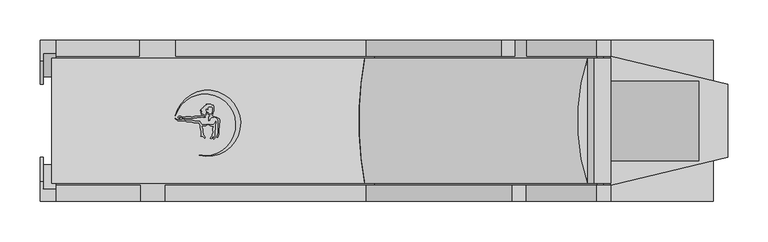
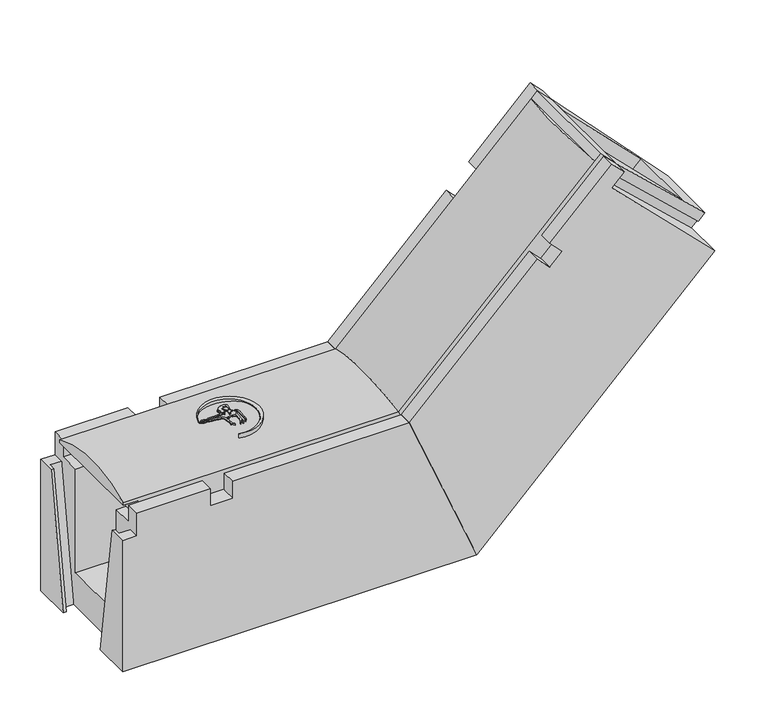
"""IFC4 building model written with IfcOpenShell, lengths in millimetres: cable carrier fitting geometry, Evotray type 1 vertical bend up : Evotray type 1 vertical bend up."""

from ifc_helpers import new_model, si_unit, point, frame, frame_2d, origin, place, context, project, spatial, polyline, circle_curve, ellipse_curve, trimmed, segment, composite_curve, outline, extrude, faceted_brep, source, transform, mapped, element, save
from ifc_brep_helpers import plane_surface, cylinder_surface, advanced_brep


def cable_carrier_fitting_4c6b5563(model_context):
    return source(origin(), model_context, "Body", "SolidModel", [
        extrude(outline(composite_curve([segment(polyline([(-170.1987673, 5.907559), (-168.7730763, 5.0844359), (-169.4820077, 4.6751342), (-172.0469375, 4.6751342), (-174.5064308, 2.2156409), (-174.5064308, 0.6319729), (-175.5639447, 0.3486129), (-175.8953119, 1.5852919), (-175.5730905, 2.7878385), (-175.5730905, 5.0146536), (-174.1065498, 6.4811943), (-174.5064308, 7.1738084), (-175.5730905, 7.7896447), (-176.4313624, 8.2851682), (-177.4244859, 9.2782918), (-177.4244859, 10.5283487), (-176.6366917, 10.0735155), (-175.5730905, 9.0099142), (-174.5064308, 8.394078), (-172.1936661, 8.394078), (-171.5617675, 9.0259766), (-171.5617675, 10.6343813), (-171.1559104, 11.3373462), (-170.9163405, 12.2314336), (-170.9163405, 16.3268685), (-171.5617675, 16.9722955), (-175.5730905, 17.3232408), (-176.3212546, 16.8912881), (-176.7531031, 16.1433045), (-176.9754965, 15.313321), (-177.2482129, 13.7666695), (-177.8042347, 14.3226912), (-178.3698905, 14.8883471), (-179.3304254, 14.8883471), (-179.8048648, 14.0665939), (-179.8048648, 13.2416885), (-179.4028177, 12.5453225), (-178.675123, 11.8176278), (-179.0717623, 10.3373496), (-179.4092623, 9.0777826), (-179.1064549, 7.3604762), (-179.907248, 7.2192748), (-181.6376932, 7.6829462), (-182.8844025, 8.2642963), (-183.6376597, 8.6155459), (-185.2371082, 8.33352), (-184.7695498, 9.1433549), (-183.1127288, 9.7463885)]), True, "CONTINUOUS"), segment(trimmed(circle_curve(frame_2d((-183.6788564, 9.4744491)), 0.6280537), [point((-183.1127288, 9.7463885))], [point((-183.8344386, 10.0829273))], True, "CARTESIAN"), True, "CONTINUOUS"), segment(polyline([(-183.8344386, 10.0829273), (-185.7814537, 10.0829273), (-185.2232755, 10.6411054), (-184.3724958, 10.9507639), (-183.5540563, 11.2486515)]), True, "CONTINUOUS"), segment(trimmed(circle_curve(frame_2d((-184.2923812, 11.2486515)), 0.7383249), [point((-183.5540563, 11.2486515))], [point((-184.2923812, 11.9869764))], True, "CARTESIAN"), True, "CONTINUOUS"), segment(polyline([(-184.2923812, 11.9869764), (-186.0001288, 11.9869764), (-186.3916504, 12.6651117), (-184.5730583, 12.9857785), (-183.2767203, 13.457607), (-183.897473, 14.0783597), (-185.8606925, 14.0783597), (-185.30811, 14.6309421), (-184.2782773, 15.2255163), (-183.603553, 15.9002407), (-182.8807357, 16.3175594), (-181.9057237, 16.8804829)]), True, "CONTINUOUS"), segment(trimmed(circle_curve(frame_2d((-182.1167091, 17.2459203)), 0.4219708), [point((-181.9057237, 16.8804829))], [point((-182.3276945, 17.6113577))], True, "CARTESIAN"), True, "CONTINUOUS"), segment(polyline([(-182.3276945, 17.6113577), (-181.7102978, 18.2287544), (-180.4076278, 18.7028875), (-179.4125713, 19.2773836), (-178.2810347, 19.4769041), (-178.6348604, 20.4490324), (-173.6348604, 20.4490324), (-172.6206866, 19.9761154), (-171.4988316, 19.6755153), (-170.4843855, 19.0898245), (-169.3757091, 17.9811481), (-169.3757091, 15.4151328), (-169.8646262, 14.5683035), (-169.8646262, 11.8362675), (-170.3536612, 10.7875287), (-170.760463, 10.0829273), (-170.760463, 8.2341629), (-171.5617675, 7.7715296), (-172.3950459, 7.6246001)]), True, "CONTINUOUS"), segment(trimmed(circle_curve(frame_2d((-171.3420944, 7.3424626)), 1.0900956), [point((-172.3950459, 7.6246001))], [point((-171.6242319, 6.2895111))], True, "CARTESIAN"), True, "CONTINUOUS"), segment(polyline([(-171.6242319, 6.2895111), (-170.1987673, 5.907559)]), True, "CONTINUOUS")], self_intersect=False)), frame((0.0, 0.0, 229.0645802), z_axis=(0.0, 0.0, 1.0), x_axis=(1.0, 0.0, 0.0)), (0.0, 0.0, 1.0), 22.5),
        extrude(outline(polyline([(-165.6420581, 3.0525563), (-167.5647021, 4.1625953), (-166.375462, 4.4812513), (-165.0006066, 3.9808448), (-162.8744575, 2.753312), (-162.462808, 1.2170154), (-162.462808, -1.5561738), (-162.8811889, -3.9289297), (-163.2073261, -13.2682758), (-163.2073261, -16.1231727), (-163.766974, -19.297094), (-164.9259981, -20.4561181), (-165.8234867, -20.4561181), (-165.1486125, -18.6019165), (-164.8396569, -16.8497423), (-164.3251997, -13.9321102), (-164.3251997, -2.6926455), (-163.883565, -0.1880111), (-164.4260419, 1.8365401), (-165.6420581, 3.0525563)])), frame((0.0, 0.0, 229.0645802), z_axis=(0.0, 0.0, 1.0), x_axis=(1.0, 0.0, 0.0)), (0.0, 0.0, 1.0), 22.5),
        extrude(outline(composite_curve([segment(polyline([(-173.070307, -4.5554644), (-171.0881056, -4.5554644), (-169.6198413, -4.2965698), (-168.3145593, -2.9912878), (-167.1344504, -0.4605362), (-166.6534984, -1.7819409), (-167.2762062, -3.117342), (-167.9468137, -4.5554644), (-167.9468137, -10.5136603), (-168.3751928, -12.943119), (-168.3751928, -21.4242609), (-169.8238515, -22.8729196), (-170.3965887, -22.3001824), (-169.7178687, -20.5578122), (-169.4597233, -19.0937972)]), True, "CONTINUOUS"), segment(trimmed(circle_curve(frame_2d((-169.8743713, -19.0937972)), 0.414648), [point((-169.4597233, -19.0937972))], [point((-170.2890194, -19.0937972))], True, "CARTESIAN"), True, "CONTINUOUS"), segment(polyline([(-170.2890194, -19.0937972), (-171.0547081, -19.8594859), (-172.3215546, -21.3692548), (-172.9770637, -22.0247639), (-173.7693849, -21.6552984), (-171.605165, -18.4467105), (-171.2992553, -16.7118106), (-170.4571975, -14.9060116), (-170.19999, -13.4473154), (-170.9884987, -12.0815782), (-170.9884987, -9.315031), (-169.6653502, -7.4454743)]), True, "CONTINUOUS"), segment(trimmed(circle_curve(frame_2d((-170.0024552, -7.2068937)), 0.4129897), [point((-169.6653502, -7.4454743))], [point((-170.2410358, -6.8697887))], True, "CARTESIAN"), True, "CONTINUOUS"), segment(polyline([(-170.2410358, -6.8697887), (-172.2448508, -6.516462), (-173.6887473, -5.843162), (-175.508748, -4.9944818), (-175.508748, -4.1255015), (-173.070307, -4.5554644)]), True, "CONTINUOUS")], self_intersect=False)), frame((0.0, 0.0, 229.0645802), z_axis=(0.0, 0.0, 1.0), x_axis=(1.0, 0.0, 0.0)), (0.0, 0.0, 1.0), 22.5),
        extrude(outline(composite_curve([segment(polyline([(-215.4819029, 2.2537302), (-213.7462291, 1.4443722), (-209.5597552, 1.4443722), (-208.4890341, 1.731271), (-207.1624965, 1.731271), (-205.4413877, 1.4443722), (-203.4350656, 0.9067798), (-202.2818775, 0.597784), (-196.5899708, 0.597784), (-193.9734749, 0.1616293), (-192.6459123, -0.19409), (-187.03167, -0.19409)]), True, "CONTINUOUS"), segment(trimmed(circle_curve(frame_2d((-178.1781038, 2.7115165)), 9.3181642), [point((-187.03167, -0.19409))], [point((-183.6774022, -4.8108435))], True, "CARTESIAN"), True, "CONTINUOUS"), segment(polyline([(-183.6774022, -4.8108435), (-180.6256174, -4.8108435), (-178.5910388, -4.632841), (-177.4520349, -4.1017147), (-177.7095548, -5.0627921), (-178.6536491, -5.6078652), (-179.612336, -5.9567987), (-182.847041, -5.8438403), (-184.0357356, -6.2764898), (-184.44473, -7.153581), (-184.3696494, -8.0117562), (-183.8907652, -8.8412079), (-183.1701597, -9.5618134), (-183.1701597, -11.3180259), (-183.53546, -12.3216801), (-183.3911934, -13.970655), (-182.8861011, -15.8556852), (-182.737982, -17.5486944), (-180.3666469, -20.2766033), (-180.5753239, -21.4600691), (-183.1701597, -18.8652332), (-184.1329913, -19.1232231), (-185.5361675, -18.8758053), (-185.2606072, -18.1187094), (-185.2606072, -15.8446539), (-185.0850033, -14.8487551), (-185.2606072, -12.8415943), (-185.6362696, -11.8094702), (-185.6362696, -9.9842873), (-186.0826053, -9.0271173), (-186.0826053, -6.6493678), (-186.3310455, -5.7221762), (-186.7830159, -4.9393406), (-187.2317276, -4.1621491), (-187.84617, -3.5477067), (-188.2800213, -2.6173096), (-191.8809595, -2.4915621), (-194.2251115, -2.1008055), (-196.2577048, -1.5561738), (-199.5993244, -1.2049554), (-201.6789374, -1.2049554), (-203.021172, -0.8453047), (-204.5447671, -0.4370587), (-205.8880204, 0.1893106), (-206.8824091, 0.1893106), (-209.5338495, 0.1893106), (-210.6460936, -0.1087143), (-212.5093755, 0.0871245), (-213.9984504, 0.3353447), (-215.6717579, 1.1156208), (-216.6476843, 2.0915471), (-217.2867674, 2.7306302), (-217.2867674, 3.5175099), (-215.4819029, 2.2537302)]), True, "CONTINUOUS")], self_intersect=False)), frame((0.0, 0.0, 229.0645802), z_axis=(0.0, 0.0, 1.0), x_axis=(1.0, 0.0, 0.0)), (0.0, 0.0, 1.0), 22.5),
        extrude(outline(composite_curve([segment(polyline([(-212.9796703, 3.7977023), (-211.956356, 3.2068915), (-213.6840165, 3.7265624), (-214.014163, 4.6441261), (-213.1758386, 5.4824506), (-210.30302, 5.4824506), (-209.318583, 5.0847122), (-208.2280942, 4.6441261), (-207.4299007, 4.1832889), (-206.1696706, 4.1832889), (-205.3486455, 4.4787), (-204.4633932, 4.9898007), (-198.0496883, 4.9898007), (-197.1941137, 4.6441261), (-196.1237116, 4.6441261), (-195.1629915, 4.9898007), (-193.9838348, 4.9898007), (-193.2654957, 5.4045339), (-187.8528405, 5.4045339), (-187.0925598, 5.6780888), (-185.8504018, 5.6780888), (-185.2746333, 6.2538574), (-183.3170698, 6.2538574), (-182.0290688, 5.7334711), (-181.0171524, 5.1492409), (-180.2127113, 4.8242256)]), True, "CONTINUOUS"), segment(trimmed(circle_curve(frame_2d((-180.6200436, 4.6596527)), 0.4393221), [point((-180.2127113, 4.8242256))], [point((-180.7846166, 4.2523203))], False, "CARTESIAN"), True, "CONTINUOUS"), segment(polyline([(-180.7846166, 4.2523203), (-181.8003453, 4.6627013), (-183.112003, 4.6627013), (-184.382433, 4.8867124), (-185.1944574, 4.5945398), (-186.3374314, 4.1832889), (-189.6816293, 4.1832889), (-190.4727027, 3.7265624), (-194.0400229, 3.7265624), (-194.9228853, 3.2168416), (-204.9228853, 3.2168416), (-207.5335493, 2.9884381), (-211.222077, 4.4787), (-213.3728446, 4.4787), (-212.9796703, 3.7977023)]), True, "CONTINUOUS")], self_intersect=False)), frame((0.0, 0.0, 229.0645802), z_axis=(0.0, 0.0, 1.0), x_axis=(1.0, 0.0, 0.0)), (0.0, 0.0, 1.0), 22.5),
        extrude(outline(composite_curve([segment(trimmed(circle_curve(frame_2d((-180.3994103, -4.8721323)), 38.3616107), [point((-187.8072471, -42.511701))], [point((-217.1109456, 6.2578432))], True, "CARTESIAN"), True, "CONTINUOUS"), segment(trimmed(circle_curve(frame_2d((-177.2700096, -2.9917986)), 40.900563), [point((-217.1109456, 6.2578432))], [point((-187.8072471, -42.511701))], False, "CARTESIAN"), True, "CONTINUOUS")], self_intersect=False)), frame((0.0, 0.0, 229.0645802), z_axis=(0.0, 0.0, 1.0), x_axis=(1.0, 0.0, 0.0)), (0.0, 0.0, 1.0), 22.5),
        advanced_brep(
        [(30.0862197, -77.5, 205.0), (323.5965005, -77.5, 498.5102807), (303.1074144, -77.5, 518.9993667), (294.6221331, -77.5, 510.5140854), (18.0740264, -77.5, 234.0), (323.5965005, 77.5, 498.5102807), (30.0862197, 77.5, 205.0), (18.0740264, 77.5, 234.0), (294.6051224, 77.5, 510.531096), (303.1074144, 77.5, 518.9993667)],
        [
            (0, 1),
            (1, 2),
            (2, 3),
            (3, 4),
            (4, 0),
            (5, 6),
            (6, 7),
            (7, 8),
            (8, 9),
            (9, 5),
            (1, 5),
            (9, 2),
            (6, 0),
            (4, 7, ellipse_curve(frame((87.8814206, 0.0, 65.4700422), z_axis=(-0.9238795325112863, 0.0, -0.38268343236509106), x_axis=(-0.3826834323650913, 0.0, 0.9238795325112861)), 200.7789296, 185.4955436)),
            (8, 3),
            (8, 3, circle_curve(frame((413.7737984, 0.0, 391.36242), z_axis=(0.7071067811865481, 0.0, 0.7071067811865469), x_axis=(0.0, -1.0, 0.0)), 185.4955436)),
        ],
        [
            plane_surface(frame((323.5965005, -77.5, 498.5102807), z_axis=(0.0, -1.0000000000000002, 0.0), x_axis=(-0.7071067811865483, 0.0, 0.7071067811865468))),
            plane_surface(frame((323.5965005, 77.5, 498.5102807), z_axis=(0.0, 1.0000000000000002, 0.0), x_axis=(0.7071067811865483, 0.0, -0.7071067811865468))),
            plane_surface(frame((323.5965005, -77.5, 498.5102807), z_axis=(0.7071067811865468, 0.0, 0.7071067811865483), x_axis=(0.0, 1.0, 0.0))),
            plane_surface(frame((11.0323958, -77.5, 251.0), z_axis=(-0.9238795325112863, 0.0, -0.38268343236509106), x_axis=(0.0, 1.0, 0.0))),
            plane_surface(frame((30.0862197, -77.5, 205.0), z_axis=(0.7071067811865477, 0.0, -0.7071067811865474), x_axis=(0.0, 1.0, 0.0))),
            plane_surface(frame((303.1074144, -77.5, 518.9993667), z_axis=(-0.7071067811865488, 0.0, 0.7071067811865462), x_axis=(-0.7071067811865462, 0.0, -0.7071067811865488))),
            plane_surface(frame((294.6221331, -77.5, 510.5140854), z_axis=(0.7071067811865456, 0.0, 0.7071067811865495), x_axis=(-0.7071067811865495, 0.0, 0.7071067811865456))),
            cylinder_surface(frame((135.4853431, 0.0, 113.0739647), z_axis=(0.7071067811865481, 0.0, 0.7071067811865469), x_axis=(0.0, -1.0, 0.0)), 185.4955436),
        ],
        [
            (0, [[1, 2, 3, 4, 5]]),
            (1, [[6, 7, 8, 9, 10]]),
            (2, [[11, -10, 12, -2]]),
            (3, [[13, -5, 14, -7]]),
            (4, [[-1, -13, -6, -11]]),
            (5, [[15, -3, -12, -9]]),
            (6, [[-15, 16]]),
            (7, [[-4, -16, -8, -14]]),
        ],
    ),
        advanced_brep(
        [(-351.0, -77.5, 205.0), (30.0862197, -77.5, 205.0), (18.0740264, -77.5, 234.0), (-371.0, -77.5, 234.0), (-371.0, -77.5, 230.0), (-351.0, -77.5, 230.0), (30.0862197, 77.5, 205.0), (-351.0, 77.5, 205.0), (-351.0, 77.5, 230.0), (-371.0, 77.5, 230.0), (-371.0, 77.5, 234.0), (18.0740264, 77.5, 234.0)],
        [
            (0, 1),
            (1, 2),
            (2, 3),
            (3, 4),
            (4, 5),
            (5, 0),
            (6, 7),
            (7, 8),
            (8, 9),
            (9, 10),
            (10, 11),
            (11, 6),
            (9, 4),
            (3, 10, circle_curve(frame((-371.0, 0.0, 65.4700422), z_axis=(-1.0, 0.0, 0.0), x_axis=(0.0, -1.0, 0.0)), 185.4955436)),
            (6, 1),
            (0, 7),
            (11, 2, ellipse_curve(frame((87.8814206, 0.0, 65.4700422), z_axis=(0.9238795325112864, 0.0, 0.38268343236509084), x_axis=(0.3826834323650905, 0.0, -0.9238795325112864)), 200.7789296, 185.4955436)),
            (8, 5),
        ],
        [
            plane_surface(frame((-371.0, -77.5, 205.0), z_axis=(0.0, -1.0, 0.0), x_axis=(0.0, 0.0, -1.0))),
            plane_surface(frame((-371.0, 77.5, 205.0), z_axis=(0.0, 1.0, 0.0), x_axis=(0.0, 0.0, 1.0))),
            plane_surface(frame((-371.0, -77.5, 251.0), z_axis=(-1.0, 0.0, 0.0), x_axis=(0.0, 1.0, 0.0))),
            plane_surface(frame((-371.0, -77.5, 205.0), z_axis=(0.0, 0.0, -1.0), x_axis=(0.0, 1.0, 0.0))),
            plane_surface(frame((30.0862197, -77.5, 205.0), z_axis=(0.9238795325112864, 0.0, 0.38268343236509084), x_axis=(0.0, 1.0, 0.0))),
            plane_surface(frame((-371.0, 77.5, 230.0), z_axis=(0.0, 0.0, -1.0), x_axis=(-1.0, 0.0, 0.0))),
            plane_surface(frame((-351.0, -77.5, 230.0), z_axis=(-1.0, 0.0, 0.0), x_axis=(0.0, 0.0, -1.0))),
            cylinder_surface(frame((-371.0, 0.0, 65.4700422), z_axis=(1.0, 0.0, 0.0), x_axis=(0.0, -1.0, 0.0)), 185.4955436),
        ],
        [
            (0, [[1, 2, 3, 4, 5, 6]]),
            (1, [[7, 8, 9, 10, 11, 12]]),
            (2, [[13, -4, 14, -10]]),
            (3, [[15, -1, 16, -7]]),
            (4, [[-15, -12, 17, -2]]),
            (5, [[18, -5, -13, -9]]),
            (6, [[-18, -8, -16, -6]]),
            (7, [[-3, -17, -11, -14]]),
        ],
    ),
        faceted_brep([(19.7308807, -100.0, 230.0), (115.0, -100.0, 0.0), (450.8757211, -100.0, 335.8757211), (305.9188309, -100.0, 480.8326112), (323.5965005, -100.0, 498.5102807), (305.9188309, -100.0, 516.1879503), (218.2375901, -100.0, 428.5067094), (235.9152596, -100.0, 410.8290399), (218.2375901, -100.0, 393.1513703), (200.5599205, -100.0, 410.8290399), (115.0, 100.0, 0.0), (19.7308807, 100.0, 230.0), (187.1248917, 100.0, 397.394011), (204.8025612, 100.0, 379.7163415), (236.6223664, 100.0, 411.5361467), (218.9446968, 100.0, 429.2138162), (305.9188309, 100.0, 516.1879503), (323.5965005, 100.0, 498.5102807), (305.9188309, 100.0, 480.8326112), (450.8757211, 100.0, 335.8757211), (323.5965005, -50.0, 498.5102807), (323.5965005, -80.0, 498.5102807), (468.5533906, -45.4, 353.5533906), (468.5533906, 45.4, 353.5533906), (323.5965005, 80.0, 498.5102807), (323.5965005, 50.0, 498.5102807), (433.1980515, 50.0, 388.9087297), (433.1980515, -50.0, 388.9087297), (305.9188309, -80.0, 516.1879503), (305.9188309, 80.0, 516.1879503), (218.2375901, -80.0, 428.5067094), (218.9446968, 80.0, 429.2138162), (19.7308807, -80.0, 230.0), (200.5599205, -80.0, 410.8290399), (19.7308807, 80.0, 230.0), (187.1248917, 80.0, 397.394011), (30.0862197, -80.0, 205.0), (30.0862197, -50.0, 205.0), (94.2893219, -50.0, 50.0), (94.2893219, 50.0, 50.0), (30.0862197, 50.0, 205.0), (30.0862197, 80.0, 205.0), (450.8757211, 43.0, 335.8757211), (459.3610024, 43.0, 344.3610024), (459.3610024, 45.4, 344.3610024), (459.3610024, -45.4, 344.3610024), (459.3610024, -43.0, 344.3610024), (450.8757211, -43.0, 335.8757211), (314.4041123, -80.0, 489.3178926), (305.9188309, -80.0, 480.8326112), (235.9152596, -80.0, 410.8290399), (218.2375901, -80.0, 393.1513703), (236.6223664, 80.0, 411.5361467), (305.9188309, 80.0, 480.8326112), (314.4041123, 80.0, 489.3178926), (204.8025612, 80.0, 379.7163415), (305.9188309, -77.6, 480.8326112), (314.4041123, -77.6, 489.3178926), (314.4041123, 77.6, 489.3178926), (305.9188309, 77.6, 480.8326112)], [[[0, 1, 2, 3, 4, 5, 6, 7, 8, 9]], [[10, 11, 12, 13, 14, 15, 16, 17, 18, 19]], [[20, 21, 22, 23, 24, 25, 26, 27]], [[28, 5, 4, 21]], [[16, 29, 24, 17]], [[5, 28, 30, 6]], [[29, 16, 15, 31]], [[32, 0, 9, 33]], [[11, 34, 35, 12]], [[1, 0, 32, 36, 37, 38, 39, 40, 41, 34, 11, 10]], [[1, 10, 19, 42, 43, 44, 23, 22, 45, 46, 47, 2]], [[28, 21, 48, 49, 50, 30]], [[36, 32, 33, 51]], [[24, 29, 31, 52, 53, 54]], [[34, 41, 55, 35]], [[37, 36, 51, 8, 7, 50, 49, 56, 57, 48, 21, 20]], [[41, 40, 25, 24, 54, 58, 59, 53, 52, 14, 13, 55]], [[27, 38, 37, 20]], [[39, 26, 25, 40]], [[38, 27, 26, 39]], [[48, 21, 4, 3, 49]], [[21, 48, 45, 22]], [[24, 54, 53, 18, 17]], [[54, 24, 23, 44]], [[46, 57, 56, 47]], [[47, 56, 49, 3, 2]], [[57, 46, 45, 48]], [[42, 59, 58, 43]], [[59, 42, 19, 18, 53]], [[43, 58, 54, 44]], [[55, 13, 12, 35]], [[14, 52, 31, 15]], [[50, 7, 6, 30]], [[8, 51, 33, 9]]]),
        faceted_brep([(-385.0, -100.0, 0.0), (115.0, -100.0, 0.0), (19.7308807, -100.0, 230.0), (-229.6518259, -100.0, 230.0), (-229.6518259, -100.0, 205.0), (-261.0, -100.0, 205.0), (-261.0, -100.0, 230.0), (-365.0130369, -100.0, 230.0), (-365.0130369, -100.0, 196.0), (-385.0, -100.0, 196.0), (19.7308807, 100.0, 230.0), (115.0, 100.0, 0.0), (-385.0, 100.0, 0.0), (-385.0, 100.0, 196.0), (-365.0130369, 100.0, 196.0), (-365.0130369, 100.0, 230.0), (-262.0, 100.0, 230.0), (-262.0, 100.0, 205.0), (-217.0, 100.0, 205.0), (-217.0, 100.0, 230.0), (19.7308807, -80.0, 230.0), (-229.6518259, -80.0, 230.0), (19.7308807, 80.0, 230.0), (-217.0, 80.0, 230.0), (-365.0130369, -80.0, 230.0), (-261.0, -80.0, 230.0), (-365.0130369, 80.0, 230.0), (-262.0, 80.0, 230.0), (-385.0, -45.45, 0.0), (-385.0, -74.8926087, 196.0), (-385.0, 45.45, 0.0), (-385.0, 74.8926087, 196.0), (-381.0, -45.45, 0.0), (-381.0, -54.6, 0.0), (-365.0, -54.6, 0.0), (-365.0, 54.6, 0.0), (-381.0, 54.6, 0.0), (-381.0, 45.45, 0.0), (30.0862197, 80.0, 205.0), (30.0862197, 50.0, 205.0), (94.2893219, 50.0, 50.0), (94.2893219, -50.0, 50.0), (30.0862197, -50.0, 205.0), (30.0862197, -80.0, 205.0), (-381.0, 74.8926087, 196.0), (-381.0, -74.8926087, 196.0), (-365.0, 84.0426087, 196.0), (-381.0, 84.0426087, 196.0), (-381.0, -84.0426087, 196.0), (-365.0, -84.0426087, 196.0), (-365.0, -80.0, 205.0), (-365.0, -77.5, 205.0), (-365.0, -50.0, 205.0), (-365.0, -50.0, 50.0), (-365.0, 50.0, 50.0), (-365.0, 50.0, 205.0), (-365.0, 77.5, 205.0), (-365.0, 80.0, 205.0), (-229.6518259, -80.0, 205.0), (-261.0, -80.0, 205.0), (-217.0, 80.0, 205.0), (-262.0, 80.0, 205.0), (-351.0, 50.0, 205.0), (-351.0, -50.0, 205.0)], [[[0, 1, 2, 3, 4, 5, 6, 7, 8, 9]], [[10, 11, 12, 13, 14, 15, 16, 17, 18, 19]], [[2, 20, 21, 3]], [[22, 10, 19, 23]], [[24, 7, 6, 25]], [[15, 26, 27, 16]], [[28, 0, 9, 29]], [[12, 30, 31, 13]], [[1, 0, 28, 32, 33, 34, 35, 36, 37, 30, 12, 11]], [[2, 1, 11, 10, 22, 38, 39, 40, 41, 42, 43, 20]], [[30, 37, 44, 31]], [[32, 28, 29, 45]], [[36, 35, 46, 47]], [[33, 32, 45, 48]], [[37, 36, 47, 44]], [[34, 33, 48, 49]], [[35, 34, 49, 8, 7, 24, 50, 51, 52, 53, 54, 55, 56, 57, 26, 15, 14, 46]], [[8, 49, 48, 45, 29, 9]], [[46, 14, 13, 31, 44, 47]], [[20, 43, 58, 21]], [[50, 24, 25, 59]], [[38, 22, 23, 60]], [[26, 57, 61, 27]], [[39, 38, 60, 18, 17, 61, 57, 56, 55, 62]], [[43, 42, 63, 52, 51, 50, 59, 5, 4, 58]], [[41, 53, 52, 63, 42]], [[54, 40, 39, 62, 55]], [[53, 41, 40, 54]], [[61, 17, 16, 27]], [[18, 60, 23, 19]], [[5, 59, 25, 6]], [[58, 4, 3, 21]]]),
    ])


if __name__ == "__main__":
    model = new_model("IFC4")
    model_context = context("Model", 3, world=origin())
    ifc_project = project(units=[si_unit("LENGTHUNIT", "METRE", prefix="MILLI")], contexts=[model_context])
    site = spatial("IfcSite", under=ifc_project)
    building = spatial("IfcBuilding", under=site)
    placement = place(None, origin())
    cable_carrier_fitting_shape = cable_carrier_fitting_4c6b5563(model_context)
    element("IfcCableCarrierFitting", 1, ObjectType="Evotray type 1 vertical bend up : Evotray type 1 vertical bend up", at=placement, inside=building, context=model_context, shape_type="MappedRepresentation", body=[
        mapped(cable_carrier_fitting_shape, transform((0.0, 0.0, 0.0), x_axis=(1.0, 0.0, 0.0), y_axis=(0.0, 1.0, 0.0), z_axis=(0.0, 0.0, 1.0))),
    ])
    save(model, "model.ifc")
